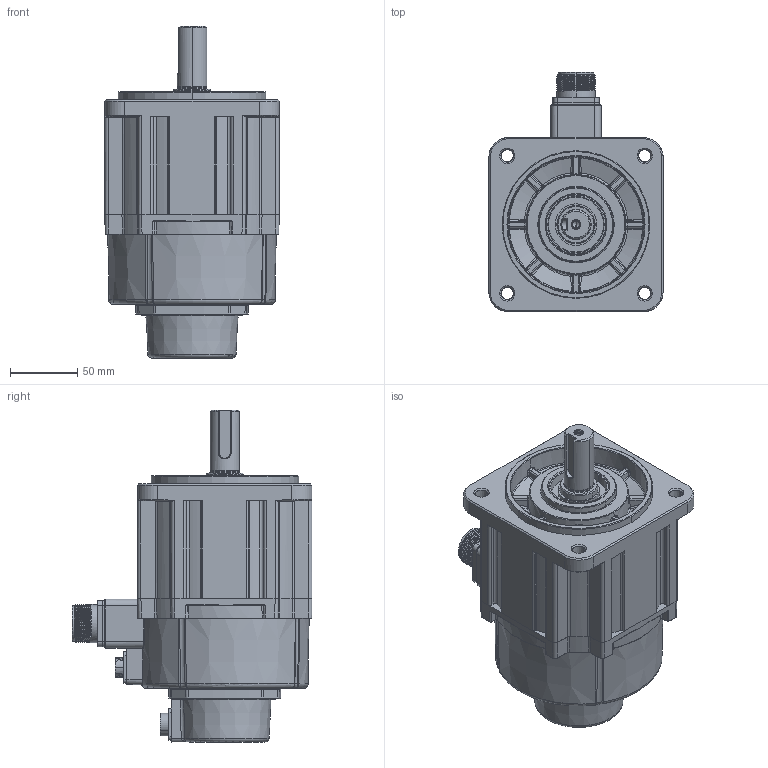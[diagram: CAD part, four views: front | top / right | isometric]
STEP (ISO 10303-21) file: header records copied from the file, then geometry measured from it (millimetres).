
FILE_DESCRIPTION((''),'2;1');
FILE_NAME('ECM-E3M-EX1320SSE_ASM','2024-03-22T15:34:55',('KUAN.WEI.SHIH'),(''),'CREO PARAMETRIC BY PTC INC, 2020454','CREO PARAMETRIC BY PTC INC, 2020454','');
FILE_SCHEMA(('CONFIG_CONTROL_DESIGN'));
Products named in the file (6): ECM-E3M-E21320SSE_00__SW0001; MS3102A18-10P_2_1; MS3102A18-10P_2_2; MS3102A18-10P_2_ASM; SC-CMV1-R02P; ECM-E3M-EX1320SSE_ASM
Assembly tree (5 placements, depth 3):
  ECM-E3M-EX1320SSE_ASM
    ECM-E3M-E21320SSE_00__SW0001
    MS3102A18-10P_2_ASM
      MS3102A18-10P_2_1
      MS3102A18-10P_2_2
    SC-CMV1-R02P
Bounding box: 130 x 178.9 x 247.5 mm (x, y, z)
Volume: 2292598.1 mm3; surface area: 177143.8 mm2
Topology: 6 solids, 24 shells, 3503 faces, 9169 edges, 5789 vertices
Faces by surface type: plane 1574, cylinder 975, cone 354, bspline 258, torus 207, sphere 93, extrusion 42
Entity records: 125528 total; most frequent: CARTESIAN_POINT 41653, ORIENTED_EDGE 18003, DIRECTION 16585, EDGE_CURVE 9038, VERTEX_POINT 5789, AXIS2_PLACEMENT_3D 5757, VECTOR 5071, LINE 5029
